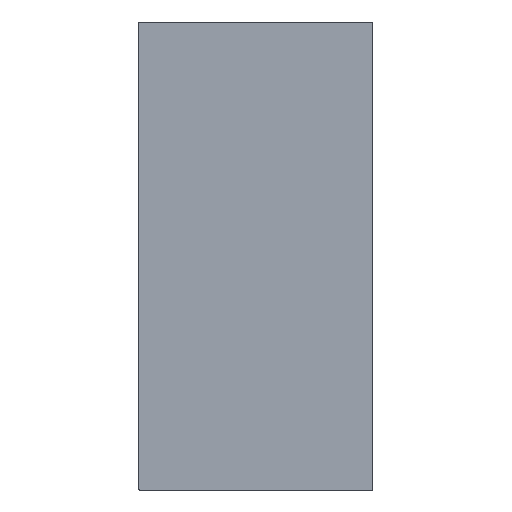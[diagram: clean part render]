
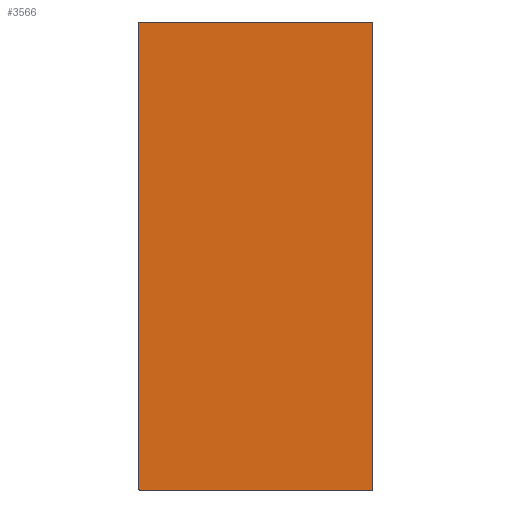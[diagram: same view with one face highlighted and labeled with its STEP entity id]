
A CAD part, front view. The second image highlights one B-rep face of the part: STEP entity #3566.
In plain terms, the highlighted planar face has unit normal (0, -1, 0).
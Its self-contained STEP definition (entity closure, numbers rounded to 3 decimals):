
#39=PLANE('',#4179);
#259=LINE('',#6653,#435);
#263=LINE('',#6662,#439);
#268=LINE('',#6717,#444);
#269=LINE('',#6721,#445);
#435=VECTOR('',#5421,10.);
#439=VECTOR('',#5431,10.);
#444=VECTOR('',#5528,10.);
#445=VECTOR('',#5535,10.);
#810=FACE_OUTER_BOUND('',#1068,.T.);
#1068=EDGE_LOOP('',(#3221,#3222,#3223,#3224,#3225,#3226,#3227,#3228));
#1401=CIRCLE('',#4128,1.);
#1402=CIRCLE('',#4131,1.);
#1403=CIRCLE('',#4174,1.);
#1404=CIRCLE('',#4177,1.);
#1661=VERTEX_POINT('',#6650);
#1662=VERTEX_POINT('',#6652);
#1663=VERTEX_POINT('',#6656);
#1664=VERTEX_POINT('',#6660);
#1665=VERTEX_POINT('',#6664);
#1666=VERTEX_POINT('',#6709);
#1667=VERTEX_POINT('',#6711);
#1668=VERTEX_POINT('',#6715);
#2174=EDGE_CURVE('',#1662,#1661,#259,.T.);
#2177=EDGE_CURVE('',#1663,#1661,#1401,.T.);
#2179=EDGE_CURVE('',#1663,#1664,#263,.T.);
#2181=EDGE_CURVE('',#1665,#1664,#1402,.T.);
#2183=EDGE_CURVE('',#1666,#1667,#1403,.T.);
#2186=EDGE_CURVE('',#1666,#1668,#268,.T.);
#2187=EDGE_CURVE('',#1662,#1668,#1404,.T.);
#2188=EDGE_CURVE('',#1665,#1667,#269,.T.);
#3221=ORIENTED_EDGE('',*,*,#2181,.F.);
#3222=ORIENTED_EDGE('',*,*,#2188,.T.);
#3223=ORIENTED_EDGE('',*,*,#2183,.F.);
#3224=ORIENTED_EDGE('',*,*,#2186,.T.);
#3225=ORIENTED_EDGE('',*,*,#2187,.F.);
#3226=ORIENTED_EDGE('',*,*,#2174,.T.);
#3227=ORIENTED_EDGE('',*,*,#2177,.F.);
#3228=ORIENTED_EDGE('',*,*,#2179,.T.);
#3566=ADVANCED_FACE('',(#810),#39,.T.);
#4128=AXIS2_PLACEMENT_3D('',#6658,#5426,#5427);
#4131=AXIS2_PLACEMENT_3D('',#6666,#5435,#5436);
#4174=AXIS2_PLACEMENT_3D('',#6712,#5522,#5523);
#4177=AXIS2_PLACEMENT_3D('',#6719,#5531,#5532);
#4179=AXIS2_PLACEMENT_3D('',#6722,#5536,#5537);
#5421=DIRECTION('',(-1.,0.,0.));
#5426=DIRECTION('center_axis',(0.,1.,0.));
#5427=DIRECTION('ref_axis',(-0.707,0.,0.707));
#5431=DIRECTION('',(0.,0.,-1.));
#5435=DIRECTION('center_axis',(0.,1.,0.));
#5436=DIRECTION('ref_axis',(-0.707,0.,-0.707));
#5522=DIRECTION('center_axis',(0.,1.,0.));
#5523=DIRECTION('ref_axis',(0.707,0.,-0.707));
#5528=DIRECTION('',(0.,0.,1.));
#5531=DIRECTION('center_axis',(0.,1.,0.));
#5532=DIRECTION('ref_axis',(0.707,0.,0.707));
#5535=DIRECTION('',(1.,0.,0.));
#5536=DIRECTION('center_axis',(0.,-1.,0.));
#5537=DIRECTION('ref_axis',(0.,0.,-1.));
#6650=CARTESIAN_POINT('',(-249.,-9.,500.));
#6652=CARTESIAN_POINT('',(249.,-9.,500.));
#6653=CARTESIAN_POINT('',(-250.,-9.,500.));
#6656=CARTESIAN_POINT('',(-250.,-9.,499.));
#6658=CARTESIAN_POINT('Origin',(-249.,-9.,499.));
#6660=CARTESIAN_POINT('',(-250.,-9.,-499.));
#6662=CARTESIAN_POINT('',(-250.,-9.,-500.));
#6664=CARTESIAN_POINT('',(-249.,-9.,-500.));
#6666=CARTESIAN_POINT('Origin',(-249.,-9.,-499.));
#6709=CARTESIAN_POINT('',(250.,-9.,-499.));
#6711=CARTESIAN_POINT('',(249.,-9.,-500.));
#6712=CARTESIAN_POINT('Origin',(249.,-9.,-499.));
#6715=CARTESIAN_POINT('',(250.,-9.,499.));
#6717=CARTESIAN_POINT('',(250.,-9.,500.));
#6719=CARTESIAN_POINT('Origin',(249.,-9.,499.));
#6721=CARTESIAN_POINT('',(250.,-9.,-500.));
#6722=CARTESIAN_POINT('Origin',(0.,-9.,0.));
